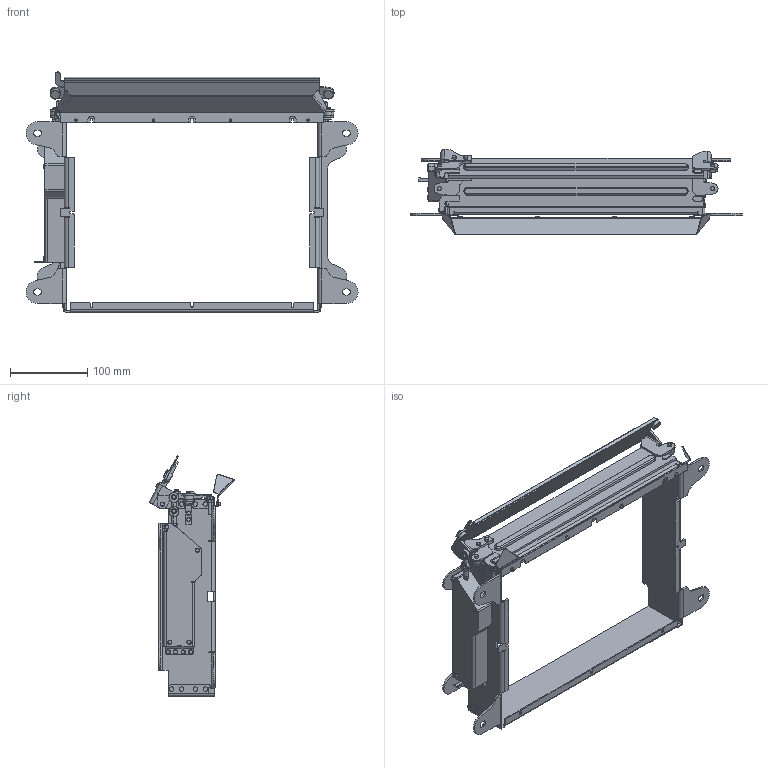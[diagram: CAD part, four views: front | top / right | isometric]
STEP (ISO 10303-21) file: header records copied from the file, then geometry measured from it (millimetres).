
FILE_DESCRIPTION (( 'STEP AP203' ), '1' );
FILE_NAME ('Asyril_PLATFORM FRAME RIGHT PURGE H=60mm - 380_000.103.787_(option).STEP', '2020-10-08T12:59:22', ( '' ), ( '' ), 'SwSTEP 2.0', 'SolidWorks 2017', '' );
FILE_SCHEMA (( 'CONFIG_CONTROL_DESIGN' ));
Length unit declared in the file: millimetre
Products named in the file (3): Asyril_PLATFORM FRAME RIGHT PURGE H=60mm - 380_000.103.787_OPEN_(option); Asyril_PLATFORM FRAME RIGHT PURGE H=60mm - 380_000.103.787_CLOSED_(option); Asyril_PLATFORM FRAME RIGHT PURGE H=60mm - 380_000.103.787_(option)
Assembly tree (2 placements, depth 2):
  Asyril_PLATFORM FRAME RIGHT PURGE H=60mm - 380_000.103.787_(option)
    Asyril_PLATFORM FRAME RIGHT PURGE H=60mm - 380_000.103.787_CLOSED_(option)
    Asyril_PLATFORM FRAME RIGHT PURGE H=60mm - 380_000.103.787_OPEN_(option)
Bounding box: 428.99 x 110.28 x 310.31 mm (x, y, z)
Volume: 882720.3 mm3; surface area: 511078 mm2
Topology: 4 solids, 12 shells, 1992 faces, 5030 edges, 3158 vertices
Faces by surface type: plane 969, cylinder 767, cone 148, torus 76, bspline 32
Entity records: 61821 total; most frequent: CARTESIAN_POINT 12301, DIRECTION 10832, ORIENTED_EDGE 10060, EDGE_CURVE 5030, AXIS2_PLACEMENT_3D 3969, VERTEX_POINT 3158, LINE 2894, VECTOR 2894
